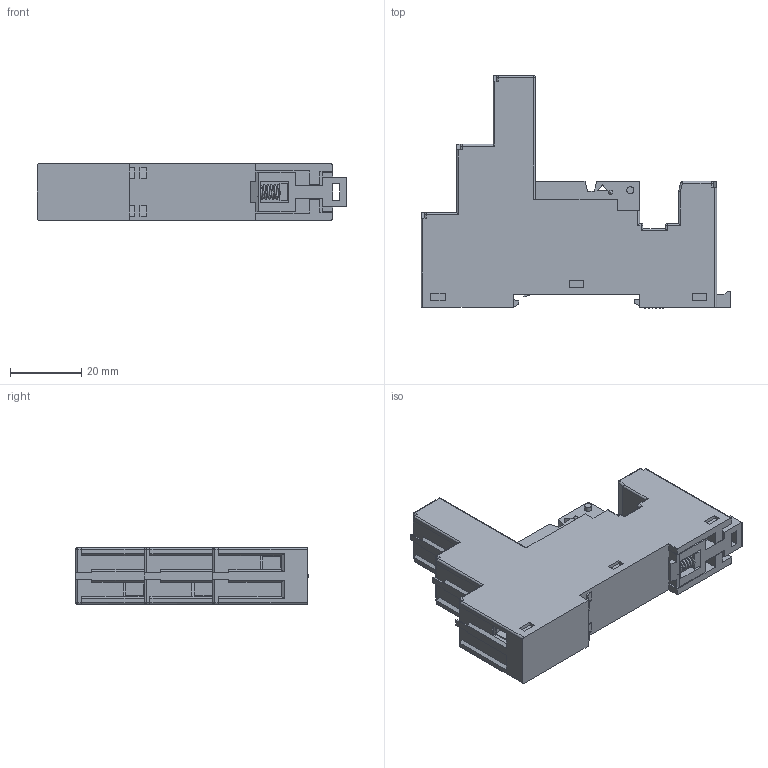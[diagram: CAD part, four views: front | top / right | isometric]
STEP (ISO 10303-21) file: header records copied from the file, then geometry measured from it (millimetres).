
FILE_DESCRIPTION(('STEP AP214'),'2;1');
FILE_NAME('9701_catalogo.stp','2011-01-05T08:41:38',(''),(''),'2007.1.106','THINKDESIGN','');
FILE_SCHEMA(('AUTOMOTIVE_DESIGN'));
Length unit declared in the file: millimetre
Products named in the file (1): None
Bounding box: 86.85 x 65.15 x 15.8 mm (x, y, z)
Surface area: 15484.8 mm2 (no closed solid volume)
Topology: 0 solids, 0 shells, 560 faces, 3130 edges, 3112 vertices
Faces by surface type: plane 420, cylinder 79, bspline 61
Full cylindrical faces by diameter (mm): 2 x3, 3.2 x1, 4.7 x5, 5 x5
Entity records: 32038 total; most frequent: CARTESIAN_POINT 9114, DIRECTION 4005, COMPOSITE_CURVE_SEGMENT 3112, TRIMMED_CURVE 2832, VECTOR 2657, LINE 2657, AXIS2_PLACEMENT_3D 674, OUTER_BOUNDARY_CURVE 560
